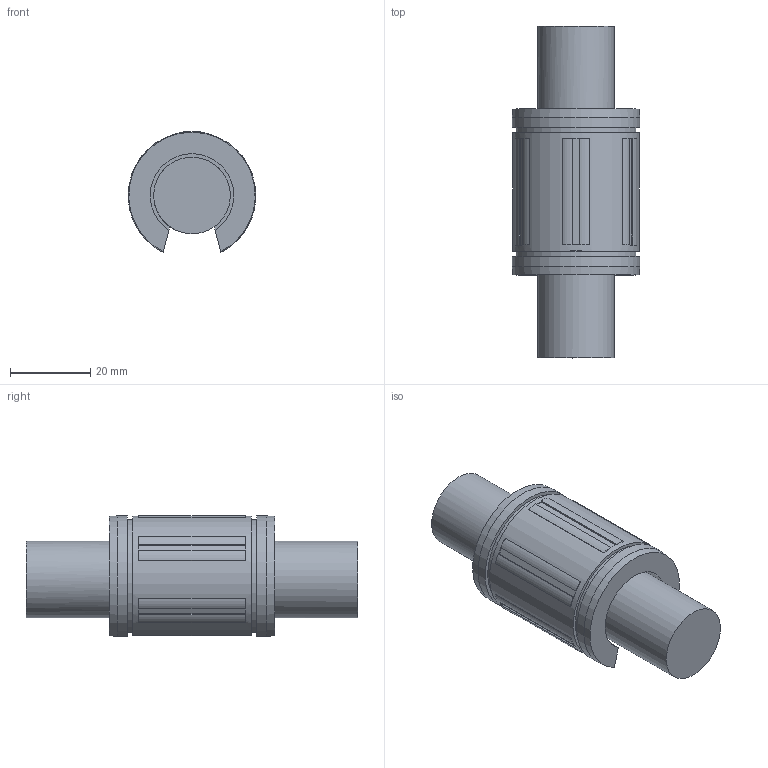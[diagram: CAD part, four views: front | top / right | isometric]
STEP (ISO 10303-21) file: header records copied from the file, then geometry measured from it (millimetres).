
FILE_DESCRIPTION((''),'2;1');
FILE_NAME('D:\STEP\SUPER\LMBS OP\LMBS12_OP.stp','2013-02-14T08:06:35',('user2'),(''),'Autodesk Inventor 2012','Autodesk Inventor 2012','');
FILE_SCHEMA(('AUTOMOTIVE_DESIGN { 1 0 10303 214 1 1 1 1 }'));
Length unit declared in the file: millimetre
Products named in the file (1): LMBS12_OP
Bounding box: 31.68 x 82.56 x 30.02 mm (x, y, z)
Volume: 39967.7 mm3; surface area: 9757.5 mm2
Topology: 1 solids, 1 shells, 87 faces, 219 edges, 139 vertices
Faces by surface type: plane 67, cylinder 18, cone 2
Full cylindrical faces by diameter (mm): 19.05 x1
Entity records: 2622 total; most frequent: DIRECTION 458, CARTESIAN_POINT 450, ORIENTED_EDGE 432, EDGE_CURVE 216, AXIS2_PLACEMENT_3D 158, VECTOR 142, LINE 142, VERTEX_POINT 138
